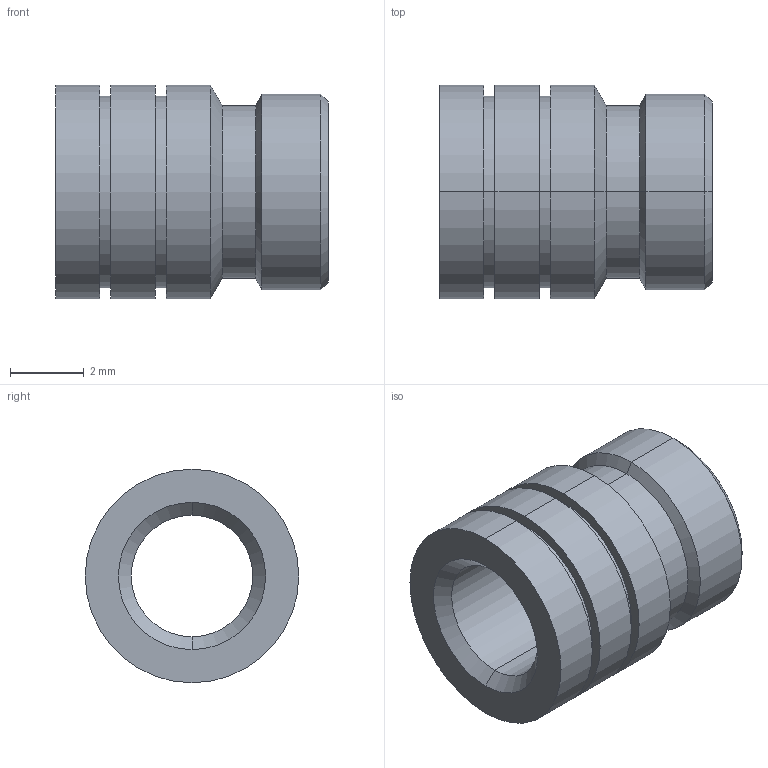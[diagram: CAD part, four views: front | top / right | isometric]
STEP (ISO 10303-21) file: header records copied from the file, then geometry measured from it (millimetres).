
FILE_DESCRIPTION (( 'STEP AP203' ), '1' );
FILE_NAME ('FSUK-MU-M04-S.STEP', '2021-04-15T13:14:40', ( '' ), ( '' ), 'SwSTEP 2.0', 'SolidWorks 2021', '' );
FILE_SCHEMA (( 'CONFIG_CONTROL_DESIGN' ));
Length unit declared in the file: millimetre
Products named in the file (1): FSUK-MU-M04-S
Bounding box: 7.4 x 5.8 x 5.8 mm (x, y, z)
Volume: 108.7 mm3; surface area: 257.6 mm2
Topology: 1 solids, 1 shells, 32 faces, 64 edges, 38 vertices
Faces by surface type: cylinder 16, cone 10, plane 6
Entity records: 915 total; most frequent: DIRECTION 168, CARTESIAN_POINT 135, ORIENTED_EDGE 128, AXIS2_PLACEMENT_3D 71, EDGE_CURVE 64, EDGE_LOOP 38, VERTEX_POINT 38, CIRCLE 38
